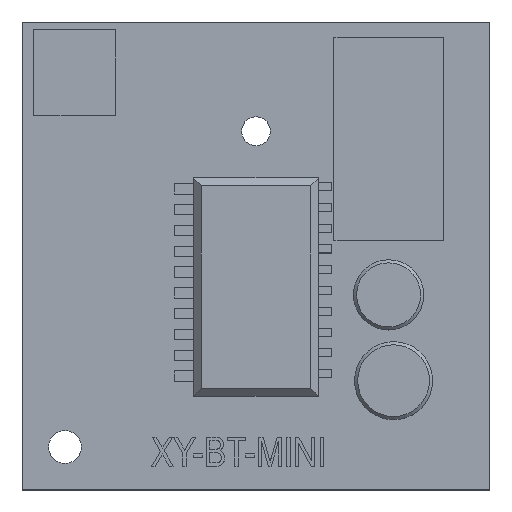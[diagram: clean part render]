
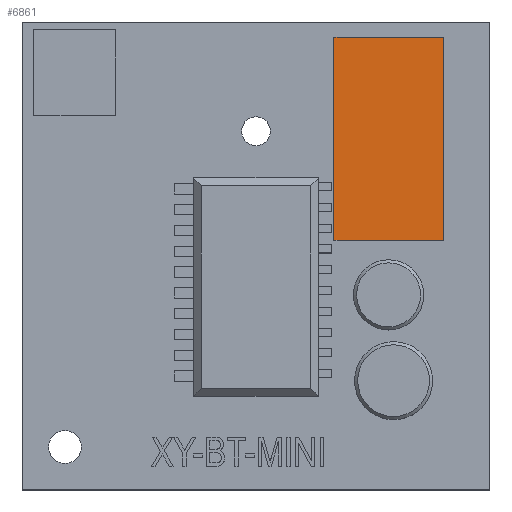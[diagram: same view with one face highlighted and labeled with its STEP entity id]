
A CAD part, top view. The second image highlights one B-rep face of the part: STEP entity #6861.
In plain terms, the highlighted planar face has unit normal (0, 0, 1).
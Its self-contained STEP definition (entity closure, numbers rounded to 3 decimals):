
#5941 = VERTEX_POINT('',#5942);
#5942 = CARTESIAN_POINT('',(5.,1.,8.));
#5948 = EDGE_CURVE('',#5941,#5949,#5951,.T.);
#5949 = VERTEX_POINT('',#5950);
#5950 = CARTESIAN_POINT('',(5.,14.,8.));
#5951 = LINE('',#5952,#5953);
#5952 = CARTESIAN_POINT('',(5.,1.,8.));
#5953 = VECTOR('',#5954,1.);
#5954 = DIRECTION('',(0.,1.,0.));
#5972 = VERTEX_POINT('',#5973);
#5973 = CARTESIAN_POINT('',(12.,1.,8.));
#5979 = EDGE_CURVE('',#5972,#5941,#5980,.T.);
#5980 = LINE('',#5981,#5982);
#5981 = CARTESIAN_POINT('',(12.,1.,8.));
#5982 = VECTOR('',#5983,1.);
#5983 = DIRECTION('',(-1.,0.,0.));
#5996 = EDGE_CURVE('',#5949,#5997,#5999,.T.);
#5997 = VERTEX_POINT('',#5998);
#5998 = CARTESIAN_POINT('',(12.,14.,8.));
#5999 = LINE('',#6000,#6001);
#6000 = CARTESIAN_POINT('',(5.,14.,8.));
#6001 = VECTOR('',#6002,1.);
#6002 = DIRECTION('',(1.,0.,0.));
#6020 = EDGE_CURVE('',#5997,#5972,#6021,.T.);
#6021 = LINE('',#6022,#6023);
#6022 = CARTESIAN_POINT('',(12.,14.,8.));
#6023 = VECTOR('',#6024,1.);
#6024 = DIRECTION('',(0.,-1.,0.));
#6861 = ADVANCED_FACE('',(#6862),#6868,.T.);
#6862 = FACE_BOUND('',#6863,.F.);
#6863 = EDGE_LOOP('',(#6864,#6865,#6866,#6867));
#6864 = ORIENTED_EDGE('',*,*,#5996,.T.);
#6865 = ORIENTED_EDGE('',*,*,#6020,.T.);
#6866 = ORIENTED_EDGE('',*,*,#5979,.T.);
#6867 = ORIENTED_EDGE('',*,*,#5948,.T.);
#6868 = PLANE('',#6869);
#6869 = AXIS2_PLACEMENT_3D('',#6870,#6871,#6872);
#6870 = CARTESIAN_POINT('',(8.5,7.5,8.));
#6871 = DIRECTION('',(0.,0.,1.));
#6872 = DIRECTION('',(1.,0.,0.));
